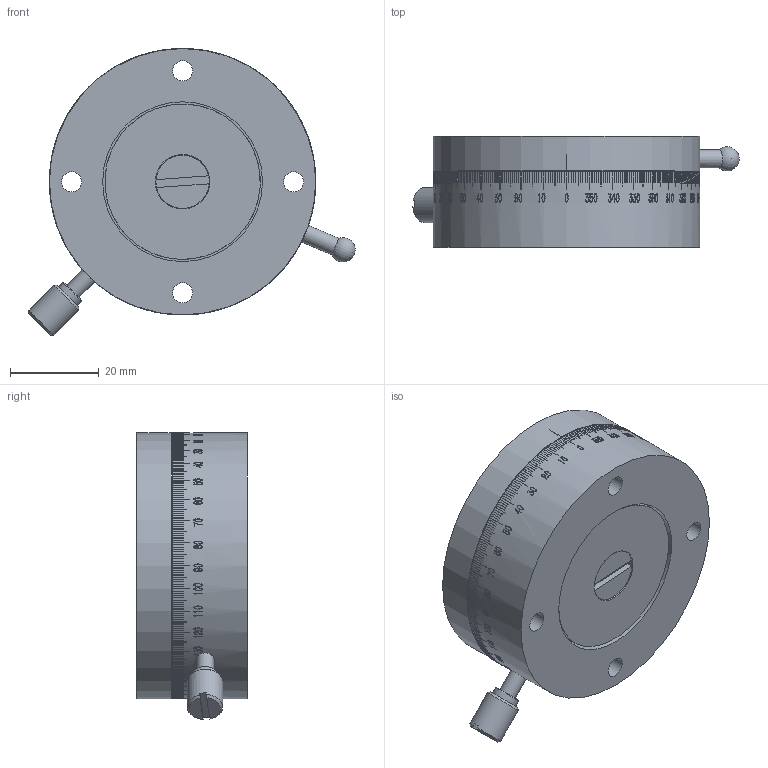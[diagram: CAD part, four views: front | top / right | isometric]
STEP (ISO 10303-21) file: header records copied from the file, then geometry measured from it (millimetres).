
FILE_DESCRIPTION (( 'STEP AP203' ), '1' );
FILE_NAME ('BER60.STEP', '2024-07-09T07:19:45', ( 'Windows User' ), ( 'P R C' ), 'SwSTEP 2.0', 'SolidWorks 2024', '' );
FILE_SCHEMA (( 'CONFIG_CONTROL_DESIGN' ));
Products named in the file (1): BER60
Bounding box: 73.51 x 25 x 64.64 mm (x, y, z)
Volume: 65174.3 mm3; surface area: 25642.7 mm2
Topology: 7 solids, 7 shells, 1732 faces, 6214 edges, 4660 vertices
Faces by surface type: plane 1483, cylinder 221, cone 23, bspline 4, sphere 1
Full cylindrical faces by diameter (mm): 2.5 x1, 2.9 x1, 3.3 x15, 3.93 x16, 4 x2, 4.3 x1, 4.5 x4, 5 x1, 5.3 x1, 5.9 x1, 6 x1, 6.2 x1, 7.5 x8, 8 x1, 12 x1, 12.3 x1, 25.5 x1, 26.5 x1, 29 x1, 31 x3, 35 x2, 36 x1, 40 x1, 60 x2
Entity records: 100015 total; most frequent: CARTESIAN_POINT 48537, ORIENTED_EDGE 12128, DIRECTION 8876, EDGE_CURVE 6064, VERTEX_POINT 4601, LINE 3648, VECTOR 3648, AXIS2_PLACEMENT_3D 2614
